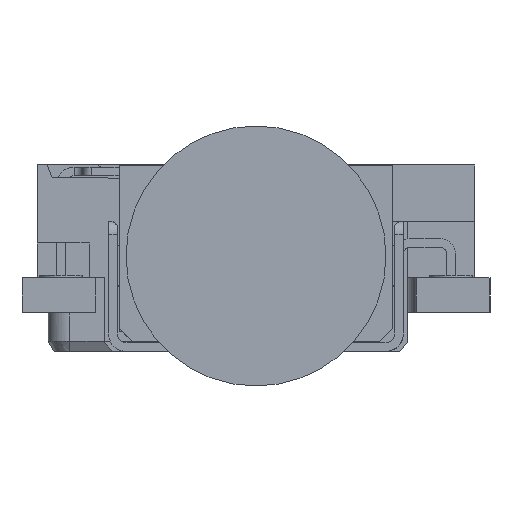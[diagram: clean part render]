
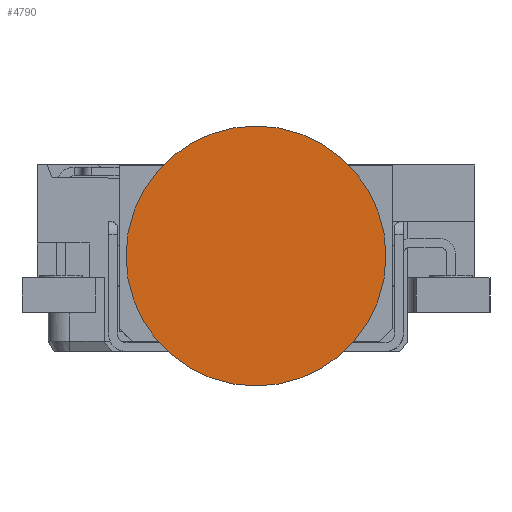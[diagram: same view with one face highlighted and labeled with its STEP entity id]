
A CAD part, front view. The second image highlights one B-rep face of the part: STEP entity #4790.
In plain terms, the highlighted planar face has unit normal (0, -1, 0) as drawn and (0, 0, 1) by its records, which use the part's own axes.
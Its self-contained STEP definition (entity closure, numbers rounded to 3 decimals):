
#249 = CARTESIAN_POINT ( 'NONE',  ( 0., 0., 2. ) ) ;
#683 = AXIS2_PLACEMENT_3D ( 'NONE', #3376, #6153, #24589 ) ;
#2499 = EDGE_CURVE ( 'NONE', #15659, #21206, #5811, .T. ) ;
#3376 = CARTESIAN_POINT ( 'NONE',  ( 0., 0., 2. ) ) ;
#3583 = PLANE ( 'NONE',  #683 ) ;
#4171 = CARTESIAN_POINT ( 'NONE',  ( 0., 0., 2. ) ) ;
#4790 = ADVANCED_FACE ( 'NONE', ( #26339 ), #3583, .T. ) ;
#5811 = CIRCLE ( 'NONE', #6347, 3. ) ;
#6153 = DIRECTION ( 'NONE',  ( 0., 0., 1. ) ) ;
#6347 = AXIS2_PLACEMENT_3D ( 'NONE', #249, #19067, #28379 ) ;
#13544 = AXIS2_PLACEMENT_3D ( 'NONE', #4171, #30430, #16221 ) ;
#15659 = VERTEX_POINT ( 'NONE', #22472 ) ;
#16221 = DIRECTION ( 'NONE',  ( 1., 0., 0. ) ) ;
#16630 = CIRCLE ( 'NONE', #13544, 3. ) ;
#19067 = DIRECTION ( 'NONE',  ( 0., 0., 1. ) ) ;
#20700 = CARTESIAN_POINT ( 'NONE',  ( 3., 0., 2. ) ) ;
#21206 = VERTEX_POINT ( 'NONE', #20700 ) ;
#22472 = CARTESIAN_POINT ( 'NONE',  ( -3., 0., 2. ) ) ;
#24589 = DIRECTION ( 'NONE',  ( 1., 0., 0. ) ) ;
#25582 = EDGE_CURVE ( 'NONE', #21206, #15659, #16630, .T. ) ;
#26214 = ORIENTED_EDGE ( 'NONE', *, *, #2499, .T. ) ;
#26339 = FACE_OUTER_BOUND ( 'NONE', #28555, .T. ) ;
#27310 = ORIENTED_EDGE ( 'NONE', *, *, #25582, .T. ) ;
#28379 = DIRECTION ( 'NONE',  ( 1., 0., 0. ) ) ;
#28555 = EDGE_LOOP ( 'NONE', ( #27310, #26214 ) ) ;
#30430 = DIRECTION ( 'NONE',  ( 0., 0., 1. ) ) ;
